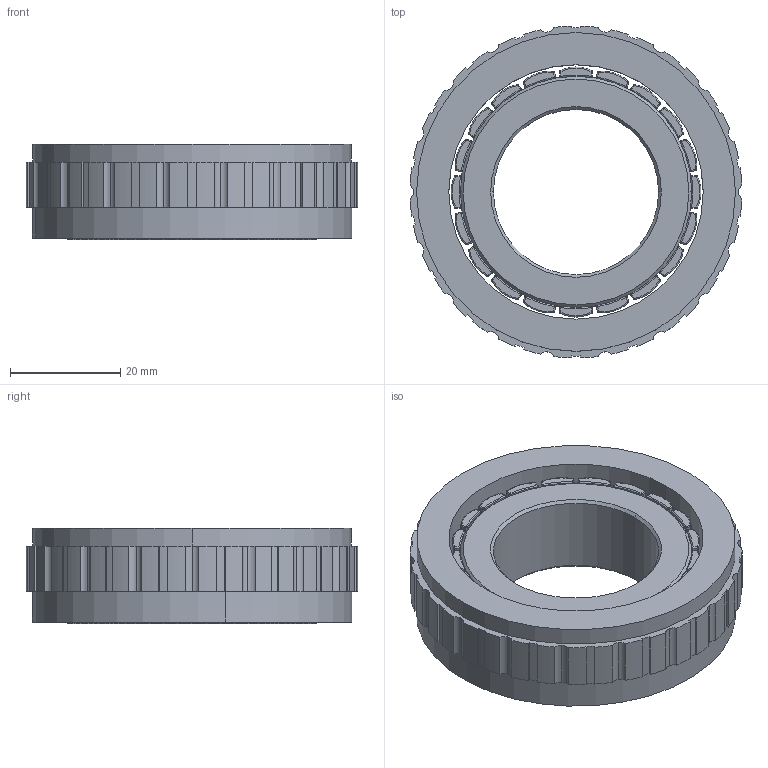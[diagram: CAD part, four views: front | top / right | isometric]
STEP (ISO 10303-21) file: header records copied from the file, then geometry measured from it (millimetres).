
FILE_DESCRIPTION (( 'STEP AP203' ), '1' );
FILE_NAME ('307091730SS 无框力矩电机 （FMK06008-0007-1630HN-10DP00）-V1.0.STEP', '2025-07-02T09:05:04', ( '' ), ( '' ), 'SwSTEP 2.0', 'SolidWorks 2023', '' );
FILE_SCHEMA (( 'CONFIG_CONTROL_DESIGN' ));
Length unit declared in the file: millimetre
Products named in the file (1): 307091730SS  无框力矩电机  （FMK06008-0007-1630HN-10DP00）-V1.0
Bounding box: 60.25 x 60.28 x 17.26 mm (x, y, z)
Volume: 30540 mm3; surface area: 17164.6 mm2
Topology: 22 solids, 22 shells, 670 faces, 1544 edges, 840 vertices
Faces by surface type: cylinder 300, sphere 160, plane 122, torus 80, cone 8
Entity records: 17555 total; most frequent: DIRECTION 3574, CARTESIAN_POINT 2815, ORIENTED_EDGE 2768, AXIS2_PLACEMENT_3D 1519, EDGE_CURVE 1384, CIRCLE 848, VERTEX_POINT 760, EDGE_LOOP 676
